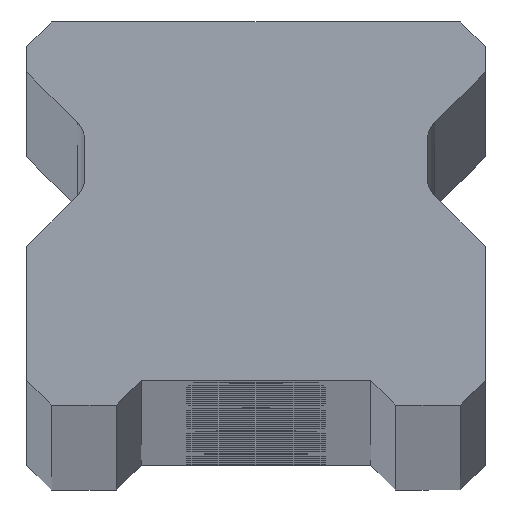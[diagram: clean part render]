
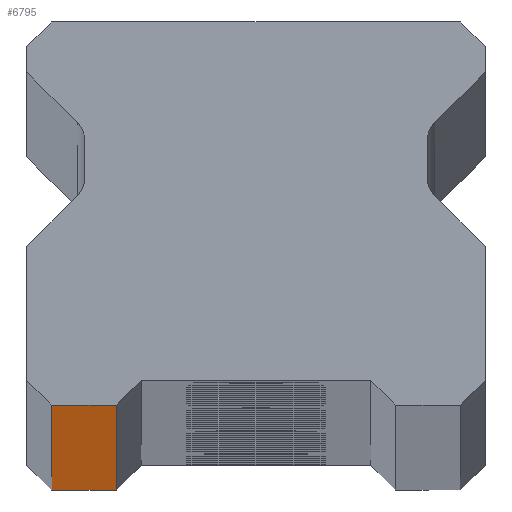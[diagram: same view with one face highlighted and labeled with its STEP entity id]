
A CAD part, top view. The second image highlights one B-rep face of the part: STEP entity #6795.
In plain terms, the highlighted planar face has unit normal (0, -1, 0).
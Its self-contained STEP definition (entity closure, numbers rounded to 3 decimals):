
#56 = CARTESIAN_POINT ( 'NONE',  ( -10.25, 0., 1220. ) ) ;
#72 = DIRECTION ( 'NONE',  ( -1., 0., 0. ) ) ;
#178 = VECTOR ( 'NONE', #6721, 1000. ) ;
#466 = DIRECTION ( 'NONE',  ( 0., 0., 1. ) ) ;
#894 = CARTESIAN_POINT ( 'NONE',  ( -7., 0., 1220. ) ) ;
#1201 = CARTESIAN_POINT ( 'NONE',  ( 11.5, 0., 1220. ) ) ;
#1236 = VECTOR ( 'NONE', #1733, 1000. ) ;
#1563 = FACE_OUTER_BOUND ( 'NONE', #5582, .T. ) ;
#1733 = DIRECTION ( 'NONE',  ( 1., 0., 0. ) ) ;
#2291 = PLANE ( 'NONE',  #5491 ) ;
#2295 = CARTESIAN_POINT ( 'NONE',  ( -7., 0., -1220. ) ) ;
#2791 = ORIENTED_EDGE ( 'NONE', *, *, #4413, .T. ) ;
#2865 = CARTESIAN_POINT ( 'NONE',  ( 11.5, 0., -1220. ) ) ;
#3087 = EDGE_CURVE ( 'NONE', #4278, #3373, #7145, .T. ) ;
#3137 = LINE ( 'NONE', #1201, #178 ) ;
#3373 = VERTEX_POINT ( 'NONE', #2295 ) ;
#3471 = CARTESIAN_POINT ( 'NONE',  ( -10.25, 0., 1220. ) ) ;
#3883 = CARTESIAN_POINT ( 'NONE',  ( -10.25, 0., -1220. ) ) ;
#3930 = ORIENTED_EDGE ( 'NONE', *, *, #5691, .T. ) ;
#3943 = VECTOR ( 'NONE', #5539, 1000. ) ;
#3981 = EDGE_CURVE ( 'NONE', #4598, #4828, #3137, .T. ) ;
#4179 = LINE ( 'NONE', #4316, #5312 ) ;
#4278 = VERTEX_POINT ( 'NONE', #3883 ) ;
#4316 = CARTESIAN_POINT ( 'NONE',  ( -7., 0., -1220. ) ) ;
#4413 = EDGE_CURVE ( 'NONE', #4598, #4278, #6259, .T. ) ;
#4456 = DIRECTION ( 'NONE',  ( 0., 1., 0. ) ) ;
#4598 = VERTEX_POINT ( 'NONE', #3471 ) ;
#4828 = VERTEX_POINT ( 'NONE', #894 ) ;
#4866 = ORIENTED_EDGE ( 'NONE', *, *, #3981, .F. ) ;
#5312 = VECTOR ( 'NONE', #466, 1000. ) ;
#5491 = AXIS2_PLACEMENT_3D ( 'NONE', #5534, #4456, #72 ) ;
#5534 = CARTESIAN_POINT ( 'NONE',  ( 11.5, 0., 1220. ) ) ;
#5539 = DIRECTION ( 'NONE',  ( 0., 0., -1. ) ) ;
#5582 = EDGE_LOOP ( 'NONE', ( #6922, #3930, #4866, #2791 ) ) ;
#5691 = EDGE_CURVE ( 'NONE', #3373, #4828, #4179, .T. ) ;
#6259 = LINE ( 'NONE', #56, #3943 ) ;
#6721 = DIRECTION ( 'NONE',  ( 1., 0., 0. ) ) ;
#6795 = ADVANCED_FACE ( 'NONE', ( #1563 ), #2291, .F. ) ;
#6922 = ORIENTED_EDGE ( 'NONE', *, *, #3087, .T. ) ;
#7145 = LINE ( 'NONE', #2865, #1236 ) ;
